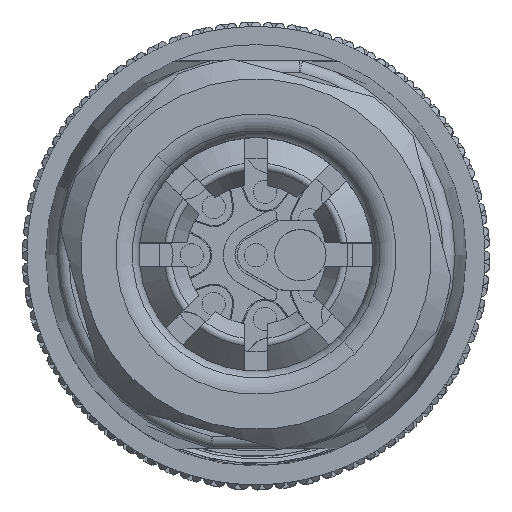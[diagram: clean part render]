
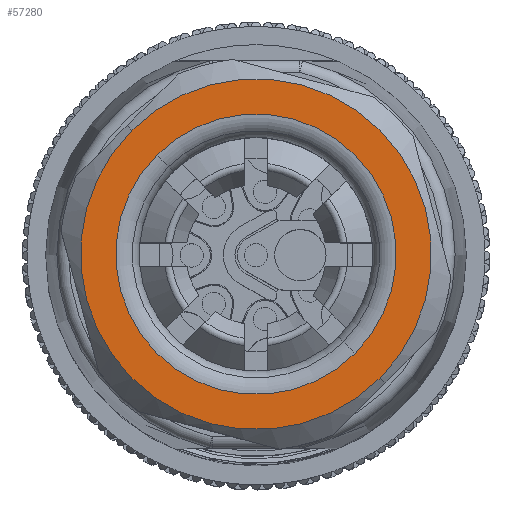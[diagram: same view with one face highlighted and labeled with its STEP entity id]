
A CAD part, top view. The second image highlights one B-rep face of the part: STEP entity #57280.
In plain terms, the highlighted planar face has unit normal (0, 0, 1).
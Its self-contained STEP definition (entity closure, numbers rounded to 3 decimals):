
#10872=CARTESIAN_POINT('',(0.,0.,
39.375));
#10873=DIRECTION('',(0.,0.,-1.));
#10874=DIRECTION('',(0.707,-0.707,0.));
#10875=AXIS2_PLACEMENT_3D('',#10872,#10873,#10874);
#10877=CARTESIAN_POINT('',(0.,0.,
39.375));
#10878=DIRECTION('',(0.,0.,-1.));
#10879=DIRECTION('',(-0.707,0.707,0.));
#10880=AXIS2_PLACEMENT_3D('',#10877,#10878,#10879);
#10882=CARTESIAN_POINT('',(0.,0.,
39.375));
#10883=DIRECTION('',(0.,0.,1.));
#10884=DIRECTION('',(-0.707,0.707,0.));
#10885=AXIS2_PLACEMENT_3D('',#10882,#10883,#10884);
#10887=CARTESIAN_POINT('',(0.,0.,
39.375));
#10888=DIRECTION('',(0.,0.,1.));
#10889=DIRECTION('',(0.707,-0.707,0.));
#10890=AXIS2_PLACEMENT_3D('',#10887,#10888,#10889);
#41212=CARTESIAN_POINT('',(-4.243,4.243,
39.375));
#41213=VERTEX_POINT('',#41212);
#41214=CARTESIAN_POINT('',(4.243,-4.243,
39.375));
#41215=VERTEX_POINT('',#41214);
#41216=CARTESIAN_POINT('',(5.308,-5.308,
39.375));
#41218=VERTEX_POINT('',#41216);
#41220=CARTESIAN_POINT('',(-5.308,5.308,
39.375));
#41222=VERTEX_POINT('',#41220);
#57264=CARTESIAN_POINT('',(0.,0.,
39.375));
#57265=DIRECTION('',(0.,0.,-1.));
#57266=DIRECTION('',(0.707,-0.707,0.));
#57267=AXIS2_PLACEMENT_3D('',#57264,#57265,#57266);
#57268=PLANE('',#57267);
#57270=ORIENTED_EDGE('',*,*,#57269,.F.);
#57271=ORIENTED_EDGE('',*,*,#57243,.F.);
#57272=EDGE_LOOP('',(#57270,#57271));
#57273=FACE_OUTER_BOUND('',#57272,.F.);
#57275=ORIENTED_EDGE('',*,*,#57274,.F.);
#57277=ORIENTED_EDGE('',*,*,#57276,.F.);
#57278=EDGE_LOOP('',(#57275,#57277));
#57279=FACE_BOUND('',#57278,.F.);
#57280=ADVANCED_FACE('',(#57273,#57279),#57268,.F.);
#10876=CIRCLE('',#10875,6.);
#10881=CIRCLE('',#10880,6.);
#10886=CIRCLE('',#10885,7.507);
#10891=CIRCLE('',#10890,7.507);
#57243=EDGE_CURVE('',#41218,#41222,#10891,.T.);
#57269=EDGE_CURVE('',#41222,#41218,#10886,.T.);
#57274=EDGE_CURVE('',#41215,#41213,#10876,.T.);
#57276=EDGE_CURVE('',#41213,#41215,#10881,.T.);
